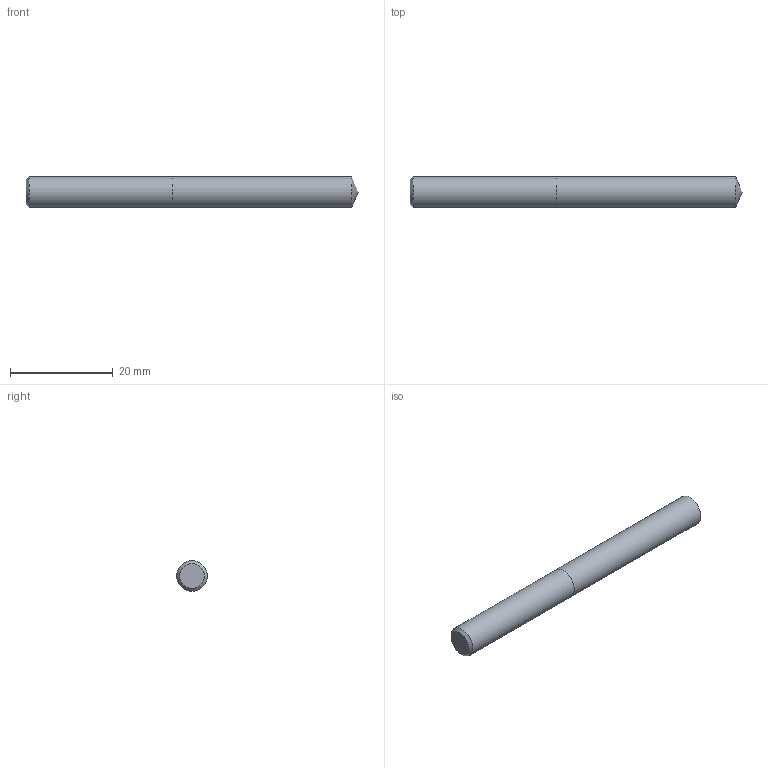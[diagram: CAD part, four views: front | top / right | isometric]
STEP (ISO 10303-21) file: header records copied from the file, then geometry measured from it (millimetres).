
FILE_DESCRIPTION (( 'STEP AP214' ), '1' );
FILE_NAME ('03-2318.STEP', '2022-06-03T06:08:52', ( 'USER' ), ( '' ), 'SwSTEP 2.0', 'SolidWorks 2018', '' );
FILE_SCHEMA (( 'AUTOMOTIVE_DESIGN' ));
Length unit declared in the file: inch
Products named in the file (1): 03-2318
Bounding box: 64.75 x 6.05 x 6.05 mm (x, y, z)
Volume: 1831.3 mm3; surface area: 1315.9 mm2
Topology: 2 solids, 2 shells, 7 faces, 11 edges, 7 vertices
Faces by surface type: plane 3, cylinder 2, cone 2
Full cylindrical faces by diameter (mm): 6.045 x2
Entity records: 214 total; most frequent: DIRECTION 26, CARTESIAN_POINT 18, AXIS2_PLACEMENT_3D 13, ORIENTED_EDGE 10, EDGE_LOOP 10, FACE_OUTER_BOUND 9, ADVANCED_FACE 7, LENGTH_MEASURE_WITH_UNIT 7
